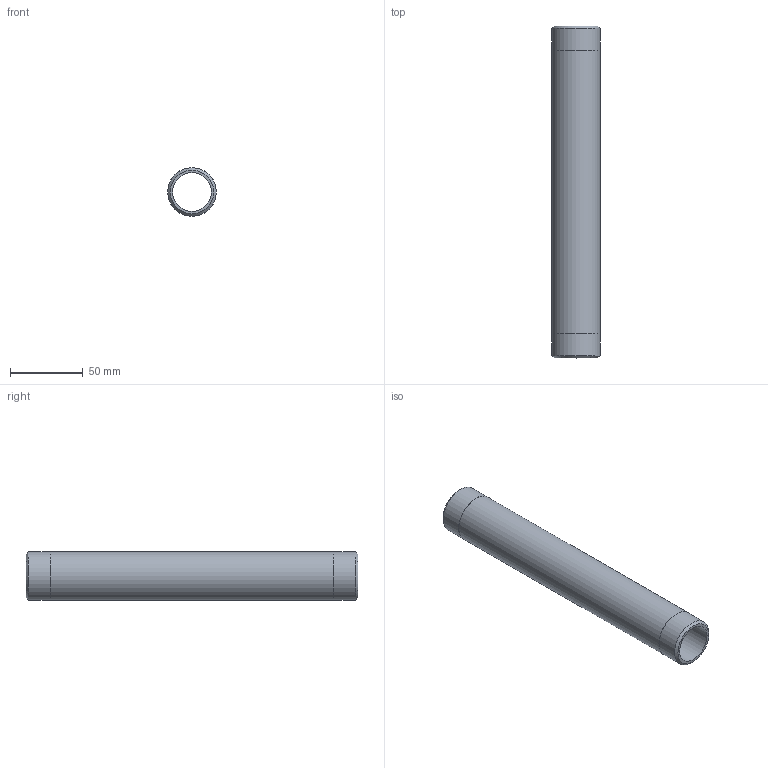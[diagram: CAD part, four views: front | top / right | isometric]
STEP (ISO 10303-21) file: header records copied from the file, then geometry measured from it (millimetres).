
FILE_DESCRIPTION(/* description */ (''),/* implementation_level */ '2;1');
FILE_NAME(/* name */ 'C:/Users/drich/Desktop/BPN1-9 v1.step',/* time_stamp */ '2020-01-03T14:16:55-06:00',/* author */ (''),/* organization */ (''),/* preprocessor_version */ 'ST-DEVELOPER v18',/* originating_system */ 'Autodesk Translation Framework v8.12.0.6',/* authorisation */ '');
FILE_SCHEMA (('AUTOMOTIVE_DESIGN { 1 0 10303 214 3 1 1 }'));
Length unit declared in the file: inch
Products named in the file (1): BPN1-9
Bounding box: 33.4 x 228.6 x 33.4 mm (x, y, z)
Volume: 72473.2 mm3; surface area: 43545 mm2
Topology: 1 solids, 1 shells, 10 faces, 24 edges, 18 vertices
Faces by surface type: cylinder 4, plane 4, cone 2
Full cylindrical faces by diameter (mm): 26.645 x1, 33.35 x2, 33.401 x1
Entity records: 360 total; most frequent: DIRECTION 64, CARTESIAN_POINT 53, ORIENTED_EDGE 48, AXIS2_PLACEMENT_3D 29, EDGE_CURVE 24, CIRCLE 18, VERTEX_POINT 18, EDGE_LOOP 14
